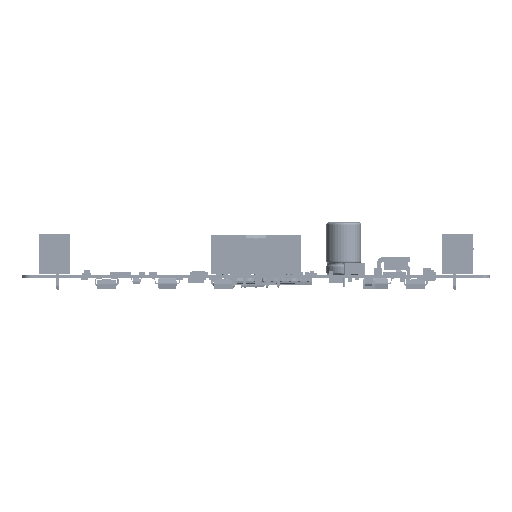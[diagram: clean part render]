
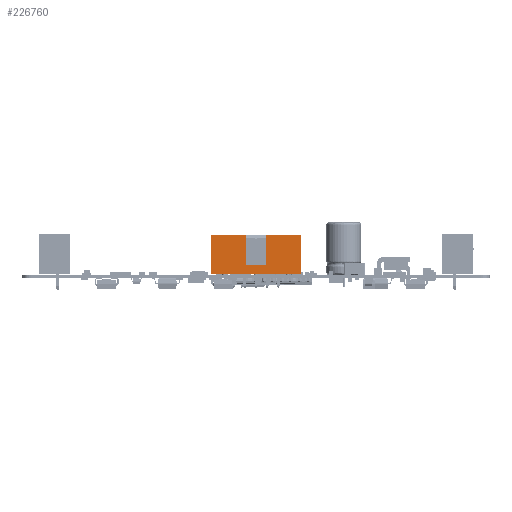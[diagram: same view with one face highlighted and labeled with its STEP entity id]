
A CAD part, left-side view. The second image highlights one B-rep face of the part: STEP entity #226760.
In plain terms, the highlighted planar face has unit normal (-1, 0, 0) as drawn and (0, -1, 0) by its records, which use the part's own axes.
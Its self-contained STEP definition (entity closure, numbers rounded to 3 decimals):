
#2790 = VERTEX_POINT ( 'NONE', #137808 ) ;
#5937 = VECTOR ( 'NONE', #182690, 1000. ) ;
#8449 = VERTEX_POINT ( 'NONE', #87062 ) ;
#9415 = VERTEX_POINT ( 'NONE', #148155 ) ;
#16117 = DIRECTION ( 'NONE',  ( 0., 1., 0. ) ) ;
#19418 = LINE ( 'NONE', #86371, #68083 ) ;
#25399 = DIRECTION ( 'NONE',  ( 0., 0., -1. ) ) ;
#29381 = VERTEX_POINT ( 'NONE', #226162 ) ;
#36230 = LINE ( 'NONE', #144055, #84988 ) ;
#36876 = LINE ( 'NONE', #227558, #91342 ) ;
#40619 = LINE ( 'NONE', #214086, #192520 ) ;
#42828 = CARTESIAN_POINT ( 'NONE',  ( -10.18, -4.425, 4.425 ) ) ;
#43817 = VECTOR ( 'NONE', #224187, 1000. ) ;
#44212 = VERTEX_POINT ( 'NONE', #147848 ) ;
#54575 = LINE ( 'NONE', #73044, #5937 ) ;
#58248 = DIRECTION ( 'NONE',  ( 1., 0., 0. ) ) ;
#61562 = VERTEX_POINT ( 'NONE', #42828 ) ;
#66717 = EDGE_CURVE ( 'NONE', #2790, #61562, #232934, .T. ) ;
#68083 = VECTOR ( 'NONE', #58248, 1000. ) ;
#73044 = CARTESIAN_POINT ( 'NONE',  ( 10.18, -4.425, 0. ) ) ;
#77672 = CARTESIAN_POINT ( 'NONE',  ( -10.18, -4.425, 0. ) ) ;
#84988 = VECTOR ( 'NONE', #199339, 1000. ) ;
#86371 = CARTESIAN_POINT ( 'NONE',  ( 0., -4.425, -2.375 ) ) ;
#87039 = LINE ( 'NONE', #171921, #227493 ) ;
#87062 = CARTESIAN_POINT ( 'NONE',  ( 10.18, -4.425, -4.425 ) ) ;
#91342 = VECTOR ( 'NONE', #117764, 1000. ) ;
#99785 = FACE_OUTER_BOUND ( 'NONE', #208696, .T. ) ;
#101541 = EDGE_CURVE ( 'NONE', #203534, #44212, #165797, .T. ) ;
#103118 = ORIENTED_EDGE ( 'NONE', *, *, #131347, .F. ) ;
#104389 = DIRECTION ( 'NONE',  ( 1., 0., 0. ) ) ;
#107375 = CARTESIAN_POINT ( 'NONE',  ( 0., -4.425, 0. ) ) ;
#109461 = EDGE_CURVE ( 'NONE', #61562, #29381, #40619, .T. ) ;
#116970 = VECTOR ( 'NONE', #177712, 1000. ) ;
#117764 = DIRECTION ( 'NONE',  ( -1., 0., 0. ) ) ;
#119365 = EDGE_CURVE ( 'NONE', #29381, #9415, #87039, .T. ) ;
#121156 = CARTESIAN_POINT ( 'NONE',  ( 10.18, -4.425, 4.425 ) ) ;
#121688 = CARTESIAN_POINT ( 'NONE',  ( 2.25, -4.425, -2.375 ) ) ;
#122826 = ORIENTED_EDGE ( 'NONE', *, *, #233590, .F. ) ;
#131347 = EDGE_CURVE ( 'NONE', #9415, #203534, #19418, .T. ) ;
#133481 = ORIENTED_EDGE ( 'NONE', *, *, #66717, .F. ) ;
#135803 = EDGE_CURVE ( 'NONE', #44212, #179204, #36230, .T. ) ;
#137808 = CARTESIAN_POINT ( 'NONE',  ( -10.18, -4.425, -4.425 ) ) ;
#144055 = CARTESIAN_POINT ( 'NONE',  ( 0., -4.425, 4.425 ) ) ;
#144166 = DIRECTION ( 'NONE',  ( 0., 0., 1. ) ) ;
#147848 = CARTESIAN_POINT ( 'NONE',  ( 2.25, -4.425, 4.425 ) ) ;
#148155 = CARTESIAN_POINT ( 'NONE',  ( -2.25, -4.425, -2.375 ) ) ;
#153456 = AXIS2_PLACEMENT_3D ( 'NONE', #107375, #16117, #144166 ) ;
#159647 = ORIENTED_EDGE ( 'NONE', *, *, #119365, .F. ) ;
#165797 = LINE ( 'NONE', #232213, #116970 ) ;
#167523 = ORIENTED_EDGE ( 'NONE', *, *, #109461, .F. ) ;
#171921 = CARTESIAN_POINT ( 'NONE',  ( -2.25, -4.425, 0. ) ) ;
#177712 = DIRECTION ( 'NONE',  ( 0., 0., 1. ) ) ;
#179204 = VERTEX_POINT ( 'NONE', #121156 ) ;
#182690 = DIRECTION ( 'NONE',  ( 0., 0., -1. ) ) ;
#186266 = EDGE_CURVE ( 'NONE', #8449, #2790, #36876, .T. ) ;
#192520 = VECTOR ( 'NONE', #104389, 1000. ) ;
#193571 = ORIENTED_EDGE ( 'NONE', *, *, #186266, .F. ) ;
#199339 = DIRECTION ( 'NONE',  ( 1., 0., 0. ) ) ;
#203534 = VERTEX_POINT ( 'NONE', #121688 ) ;
#208696 = EDGE_LOOP ( 'NONE', ( #103118, #159647, #167523, #133481, #193571, #122826, #219660, #224601 ) ) ;
#214086 = CARTESIAN_POINT ( 'NONE',  ( 0., -4.425, 4.425 ) ) ;
#217155 = PLANE ( 'NONE',  #153456 ) ;
#219660 = ORIENTED_EDGE ( 'NONE', *, *, #135803, .F. ) ;
#224187 = DIRECTION ( 'NONE',  ( 0., 0., 1. ) ) ;
#224601 = ORIENTED_EDGE ( 'NONE', *, *, #101541, .F. ) ;
#226162 = CARTESIAN_POINT ( 'NONE',  ( -2.25, -4.425, 4.425 ) ) ;
#226760 = ADVANCED_FACE ( 'NONE', ( #99785 ), #217155, .F. ) ;
#227493 = VECTOR ( 'NONE', #25399, 1000. ) ;
#227558 = CARTESIAN_POINT ( 'NONE',  ( 0., -4.425, -4.425 ) ) ;
#232213 = CARTESIAN_POINT ( 'NONE',  ( 2.25, -4.425, 0. ) ) ;
#232934 = LINE ( 'NONE', #77672, #43817 ) ;
#233590 = EDGE_CURVE ( 'NONE', #179204, #8449, #54575, .T. ) ;
